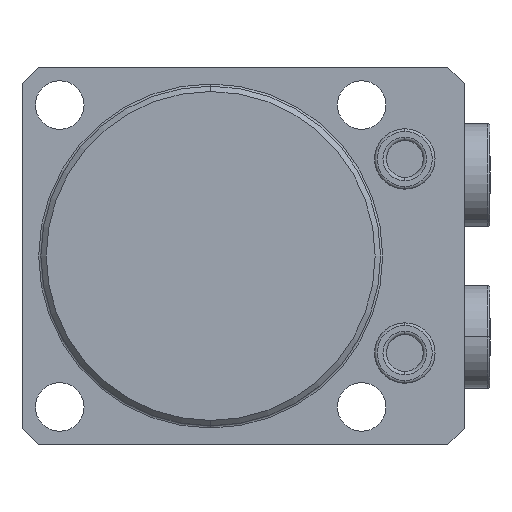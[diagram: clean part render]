
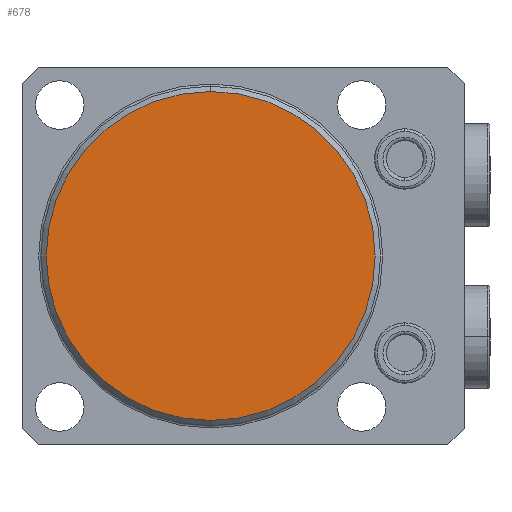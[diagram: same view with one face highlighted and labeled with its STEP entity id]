
A CAD part, front view. The second image highlights one B-rep face of the part: STEP entity #678.
In plain terms, the highlighted planar face has unit normal (0, -1, 0) as drawn and (0, 1, 0) by its records, which use the part's own axes.
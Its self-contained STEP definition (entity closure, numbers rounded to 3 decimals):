
#236=PLANE('',#4849);
#678=ADVANCED_FACE('',(#934),#236,.T.);
#934=FACE_OUTER_BOUND('',#1213,.F.);
#1213=EDGE_LOOP('',(#2821,#2822));
#2821=ORIENTED_EDGE('',*,*,#4031,.T.);
#2822=ORIENTED_EDGE('',*,*,#3940,.T.);
#3396=VERTEX_POINT('',#7398);
#3397=VERTEX_POINT('',#7399);
#3940=EDGE_CURVE('',#3396,#3397,#4338,.T.);
#4031=EDGE_CURVE('',#3397,#3396,#4357,.T.);
#4338=CIRCLE('',#4814,30.5);
#4357=CIRCLE('',#4848,30.5);
#4814=AXIS2_PLACEMENT_3D('',#7397,#6003,#6004);
#4848=AXIS2_PLACEMENT_3D('',#7655,#6120,#6121);
#4849=AXIS2_PLACEMENT_3D('',#7656,#6122,#6123);
#6003=DIRECTION('',(0.,-1.,0.));
#6004=DIRECTION('',(0.,0.,1.));
#6120=DIRECTION('',(0.,-1.,0.));
#6121=DIRECTION('',(0.,0.,1.));
#6122=DIRECTION('',(0.,1.,0.));
#6123=DIRECTION('',(0.,0.,1.));
#7397=CARTESIAN_POINT('',(0.,-47.,0.));
#7398=CARTESIAN_POINT('',(0.,-47.,-30.5));
#7399=CARTESIAN_POINT('',(0.,-47.,30.5));
#7655=CARTESIAN_POINT('',(0.,-47.,0.));
#7656=CARTESIAN_POINT('',(0.,-47.,0.));
